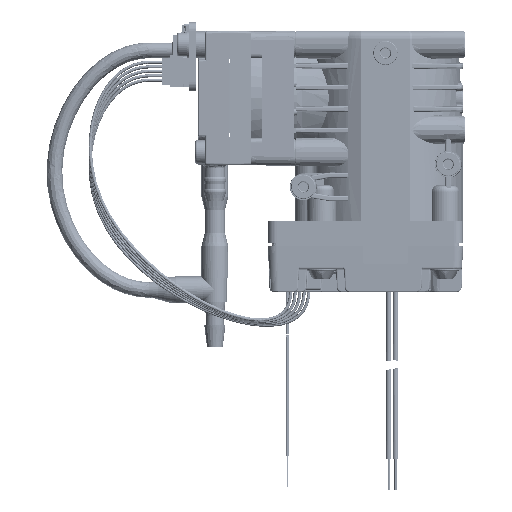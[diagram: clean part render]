
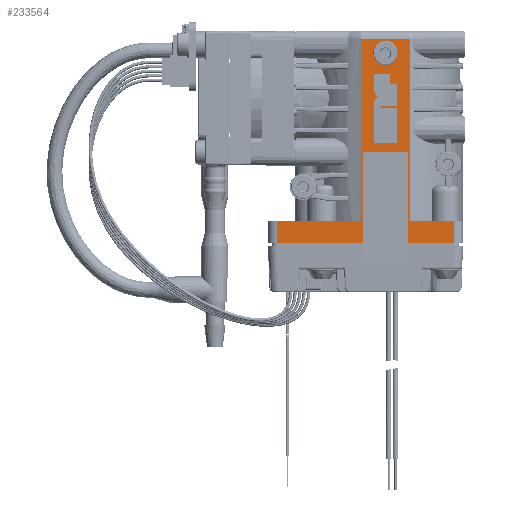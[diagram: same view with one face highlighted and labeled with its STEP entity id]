
A CAD part, left-side view. The second image highlights one B-rep face of the part: STEP entity #233564.
In plain terms, the highlighted planar face has unit normal (-1, 0, 0).
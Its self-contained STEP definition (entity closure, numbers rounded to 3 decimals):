
#52424=DIRECTION('',(0.,1.,0.));
#52425=VECTOR('',#52424,18.676);
#52426=CARTESIAN_POINT('',(-16.5,5.524,-27.43));
#52427=LINE('',#52426,#52425);
#53264=DIRECTION('',(0.,0.,-1.));
#53265=VECTOR('',#53264,4.8);
#53266=CARTESIAN_POINT('',(-16.5,24.2,-27.43));
#53267=LINE('',#53266,#53265);
#53273=DIRECTION('',(0.,0.,1.));
#53274=VECTOR('',#53273,19.73);
#53275=CARTESIAN_POINT('',(-16.5,-5.,-32.23));
#53276=LINE('',#53275,#53274);
#53277=CARTESIAN_POINT('',(-16.5,-4.5,-12.5));
#53278=DIRECTION('',(1.,0.,0.));
#53279=DIRECTION('',(0.,0.,1.));
#53280=AXIS2_PLACEMENT_3D('',#53277,#53278,#53279);
#53282=DIRECTION('',(0.,1.,0.));
#53283=VECTOR('',#53282,9.);
#53284=CARTESIAN_POINT('',(-16.5,-4.5,-12.));
#53285=LINE('',#53284,#53283);
#53286=CARTESIAN_POINT('',(-16.5,4.5,-12.5));
#53287=DIRECTION('',(1.,0.,0.));
#53288=DIRECTION('',(0.,1.,0.));
#53289=AXIS2_PLACEMENT_3D('',#53286,#53287,#53288);
#53291=DIRECTION('',(0.,0.,1.));
#53292=VECTOR('',#53291,19.73);
#53293=CARTESIAN_POINT('',(-16.5,5.,-32.23));
#53294=LINE('',#53293,#53292);
#53295=DIRECTION('',(0.,1.,0.));
#53296=VECTOR('',#53295,19.2);
#53297=CARTESIAN_POINT('',(-16.5,5.,-32.23));
#53298=LINE('',#53297,#53296);
#53299=DIRECTION('',(0.,-1.,0.));
#53300=VECTOR('',#53299,11.047);
#53301=CARTESIAN_POINT('',(-16.5,5.524,13.1));
#53302=LINE('',#53301,#53300);
#53303=DIRECTION('',(0.,0.,1.));
#53304=VECTOR('',#53303,20.);
#53305=CARTESIAN_POINT('',(-16.5,-5.524,-6.9));
#53306=LINE('',#53305,#53304);
#53307=DIRECTION('',(0.,0.,-1.));
#53308=VECTOR('',#53307,4.8);
#53309=CARTESIAN_POINT('',(-16.5,-15.3,-27.43));
#53310=LINE('',#53309,#53308);
#53311=DIRECTION('',(0.,1.,0.));
#53312=VECTOR('',#53311,10.3);
#53313=CARTESIAN_POINT('',(-16.5,-15.3,-32.23));
#53314=LINE('',#53313,#53312);
#53315=CARTESIAN_POINT('',(-16.5,0.,10.1));
#53316=DIRECTION('',(1.,0.,0.));
#53317=DIRECTION('',(0.,0.,-1.));
#53318=AXIS2_PLACEMENT_3D('',#53315,#53316,#53317);
#53320=CARTESIAN_POINT('',(-16.5,0.,10.1));
#53321=DIRECTION('',(1.,0.,0.));
#53322=DIRECTION('',(0.,0.,1.));
#53323=AXIS2_PLACEMENT_3D('',#53320,#53321,#53322);
#53325=DIRECTION('',(0.,-1.,0.));
#53326=VECTOR('',#53325,5.);
#53327=CARTESIAN_POINT('',(-16.5,2.5,-9.884));
#53328=LINE('',#53327,#53326);
#53329=DIRECTION('',(0.,0.,1.));
#53330=VECTOR('',#53329,7.626);
#53331=CARTESIAN_POINT('',(-16.5,-2.5,-9.884));
#53332=LINE('',#53331,#53330);
#53333=DIRECTION('',(0.,1.,0.));
#53334=VECTOR('',#53333,3.465);
#53335=CARTESIAN_POINT('',(-16.5,-2.5,-2.258));
#53336=LINE('',#53335,#53334);
#53337=DIRECTION('',(0.,0.,1.));
#53338=VECTOR('',#53337,0.616);
#53339=CARTESIAN_POINT('',(-16.5,0.965,-2.258));
#53340=LINE('',#53339,#53338);
#53341=DIRECTION('',(0.,-1.,0.));
#53342=VECTOR('',#53341,3.465);
#53343=CARTESIAN_POINT('',(-16.5,0.965,-1.642));
#53344=LINE('',#53343,#53342);
#53345=DIRECTION('',(0.,0.,1.));
#53346=VECTOR('',#53345,4.806);
#53347=CARTESIAN_POINT('',(-16.5,-2.5,-1.642));
#53348=LINE('',#53347,#53346);
#53349=DIRECTION('',(0.,1.,0.));
#53350=VECTOR('',#53349,1.54);
#53351=CARTESIAN_POINT('',(-16.5,-2.5,3.164));
#53352=LINE('',#53351,#53350);
#53353=DIRECTION('',(0.,0.,1.));
#53354=VECTOR('',#53353,2.336);
#53355=CARTESIAN_POINT('',(-16.5,-0.96,3.164));
#53356=LINE('',#53355,#53354);
#53357=DIRECTION('',(0.,1.,0.));
#53358=VECTOR('',#53357,3.46);
#53359=CARTESIAN_POINT('',(-16.5,-0.96,5.5));
#53360=LINE('',#53359,#53358);
#53361=DIRECTION('',(0.,0.,-1.));
#53362=VECTOR('',#53361,3.654);
#53363=CARTESIAN_POINT('',(-16.5,2.5,5.5));
#53364=LINE('',#53363,#53362);
#53365=CARTESIAN_POINT('',(-16.5,0.727,1.846));
#53366=DIRECTION('',(-1.,0.,0.));
#53367=DIRECTION('',(0.,1.,0.));
#53368=AXIS2_PLACEMENT_3D('',#53365,#53366,#53367);
#53370=CARTESIAN_POINT('',(-16.5,0.967,-1.123));
#53371=DIRECTION('',(-1.,0.,0.));
#53372=DIRECTION('',(0.,0.394,0.919));
#53373=AXIS2_PLACEMENT_3D('',#53370,#53371,#53372);
#53375=DIRECTION('',(0.,0.,-1.));
#53376=VECTOR('',#53375,8.761);
#53377=CARTESIAN_POINT('',(-16.5,2.5,-1.123));
#53378=LINE('',#53377,#53376);
#54856=DIRECTION('',(0.,0.,1.));
#54857=VECTOR('',#54856,20.53);
#54858=CARTESIAN_POINT('',(-16.5,-5.524,-27.43));
#54859=LINE('',#54858,#54857);
#55129=DIRECTION('',(0.,1.,0.));
#55130=VECTOR('',#55129,9.776);
#55131=CARTESIAN_POINT('',(-16.5,-15.3,-27.43));
#55132=LINE('',#55131,#55130);
#55358=CARTESIAN_POINT('',(-16.5,-5.524,13.1));
#60213=DIRECTION('',(0.,0.,-1.));
#60214=VECTOR('',#60213,40.53);
#60215=CARTESIAN_POINT('',(-16.5,5.524,13.1));
#60216=LINE('',#60215,#60214);
#194848=CARTESIAN_POINT('',(-16.5,-15.3,-27.43));
#194849=VERTEX_POINT('',#194848);
#194850=CARTESIAN_POINT('',(-16.5,24.2,-27.43));
#194851=VERTEX_POINT('',#194850);
#194860=CARTESIAN_POINT('',(-16.5,-15.3,-32.23));
#194861=VERTEX_POINT('',#194860);
#194862=CARTESIAN_POINT('',(-16.5,24.2,-32.23));
#194864=VERTEX_POINT('',#194862);
#194877=CARTESIAN_POINT('',(-16.5,5.524,-27.43));
#194879=VERTEX_POINT('',#194877);
#194880=CARTESIAN_POINT('',(-16.5,-5.524,-27.43));
#194882=VERTEX_POINT('',#194880);
#195106=CARTESIAN_POINT('',(-16.5,-5.524,-6.9));
#195107=VERTEX_POINT('',#195106);
#195360=CARTESIAN_POINT('',(-16.5,2.5,-9.884));
#195361=CARTESIAN_POINT('',(-16.5,-2.5,-9.884));
#195362=VERTEX_POINT('',#195360);
#195363=VERTEX_POINT('',#195361);
#195364=CARTESIAN_POINT('',(-16.5,-2.5,-2.258));
#195365=VERTEX_POINT('',#195364);
#195366=CARTESIAN_POINT('',(-16.5,0.965,-2.258));
#195367=VERTEX_POINT('',#195366);
#195368=CARTESIAN_POINT('',(-16.5,0.965,-1.642));
#195369=VERTEX_POINT('',#195368);
#195370=CARTESIAN_POINT('',(-16.5,-2.5,-1.642));
#195371=VERTEX_POINT('',#195370);
#195372=CARTESIAN_POINT('',(-16.5,-2.5,3.164));
#195373=VERTEX_POINT('',#195372);
#195374=CARTESIAN_POINT('',(-16.5,-0.96,3.164));
#195375=VERTEX_POINT('',#195374);
#195376=CARTESIAN_POINT('',(-16.5,-0.96,5.5));
#195377=VERTEX_POINT('',#195376);
#195378=CARTESIAN_POINT('',(-16.5,2.5,5.5));
#195379=VERTEX_POINT('',#195378);
#195380=CARTESIAN_POINT('',(-16.5,2.5,1.846));
#195381=VERTEX_POINT('',#195380);
#195382=CARTESIAN_POINT('',(-16.5,1.57,0.286));
#195383=VERTEX_POINT('',#195382);
#195384=CARTESIAN_POINT('',(-16.5,2.5,-1.123));
#195385=VERTEX_POINT('',#195384);
#196458=CARTESIAN_POINT('',(-16.5,0.,7.4));
#196459=CARTESIAN_POINT('',(-16.5,0.,12.8));
#196460=VERTEX_POINT('',#196458);
#196461=VERTEX_POINT('',#196459);
#196680=VERTEX_POINT('',#55358);
#196683=CARTESIAN_POINT('',(-16.5,5.524,13.1));
#196684=VERTEX_POINT('',#196683);
#209324=CARTESIAN_POINT('',(-16.5,-5.,-32.23));
#209325=CARTESIAN_POINT('',(-16.5,-5.,-12.5));
#209326=VERTEX_POINT('',#209324);
#209327=VERTEX_POINT('',#209325);
#209328=CARTESIAN_POINT('',(-16.5,-4.5,-12.));
#209329=CARTESIAN_POINT('',(-16.5,4.5,-12.));
#209330=VERTEX_POINT('',#209328);
#209331=VERTEX_POINT('',#209329);
#209332=CARTESIAN_POINT('',(-16.5,5.,-32.23));
#209333=CARTESIAN_POINT('',(-16.5,5.,-12.5));
#209334=VERTEX_POINT('',#209332);
#209335=VERTEX_POINT('',#209333);
#233495=CARTESIAN_POINT('',(-16.5,5.524,0.));
#233496=DIRECTION('',(-1.,0.,0.));
#233497=DIRECTION('',(0.,-1.,0.));
#233498=AXIS2_PLACEMENT_3D('',#233495,#233496,#233497);
#233499=PLANE('',#233498);
#233501=ORIENTED_EDGE('',*,*,#233500,.T.);
#233503=ORIENTED_EDGE('',*,*,#233502,.F.);
#233505=ORIENTED_EDGE('',*,*,#233504,.T.);
#233507=ORIENTED_EDGE('',*,*,#233506,.F.);
#233509=ORIENTED_EDGE('',*,*,#233508,.F.);
#233511=ORIENTED_EDGE('',*,*,#233510,.T.);
#233512=ORIENTED_EDGE('',*,*,#233479,.F.);
#233513=ORIENTED_EDGE('',*,*,#233165,.F.);
#233515=ORIENTED_EDGE('',*,*,#233514,.F.);
#233517=ORIENTED_EDGE('',*,*,#233516,.T.);
#233519=ORIENTED_EDGE('',*,*,#233518,.F.);
#233521=ORIENTED_EDGE('',*,*,#233520,.F.);
#233523=ORIENTED_EDGE('',*,*,#233522,.F.);
#233525=ORIENTED_EDGE('',*,*,#233524,.T.);
#233527=ORIENTED_EDGE('',*,*,#233526,.T.);
#233528=EDGE_LOOP('',(#233501,#233503,#233505,#233507,#233509,#233511,#233512,
#233513,#233515,#233517,#233519,#233521,#233523,#233525,#233527));
#233529=FACE_OUTER_BOUND('',#233528,.F.);
#233531=ORIENTED_EDGE('',*,*,#233530,.F.);
#233533=ORIENTED_EDGE('',*,*,#233532,.F.);
#233534=EDGE_LOOP('',(#233531,#233533));
#233535=FACE_BOUND('',#233534,.F.);
#233537=ORIENTED_EDGE('',*,*,#233536,.T.);
#233539=ORIENTED_EDGE('',*,*,#233538,.T.);
#233541=ORIENTED_EDGE('',*,*,#233540,.T.);
#233543=ORIENTED_EDGE('',*,*,#233542,.T.);
#233545=ORIENTED_EDGE('',*,*,#233544,.T.);
#233547=ORIENTED_EDGE('',*,*,#233546,.T.);
#233549=ORIENTED_EDGE('',*,*,#233548,.T.);
#233551=ORIENTED_EDGE('',*,*,#233550,.T.);
#233553=ORIENTED_EDGE('',*,*,#233552,.T.);
#233555=ORIENTED_EDGE('',*,*,#233554,.T.);
#233557=ORIENTED_EDGE('',*,*,#233556,.T.);
#233559=ORIENTED_EDGE('',*,*,#233558,.T.);
#233561=ORIENTED_EDGE('',*,*,#233560,.T.);
#233562=EDGE_LOOP('',(#233537,#233539,#233541,#233543,#233545,#233547,#233549,
#233551,#233553,#233555,#233557,#233559,#233561));
#233563=FACE_BOUND('',#233562,.F.);
#53281=CIRCLE('',#53280,0.5);
#53290=CIRCLE('',#53289,0.5);
#53319=CIRCLE('',#53318,2.7);
#53324=CIRCLE('',#53323,2.7);
#53369=CIRCLE('',#53368,1.773);
#53374=CIRCLE('',#53373,1.533);
#233165=EDGE_CURVE('',#194879,#194851,#52427,.T.);
#233479=EDGE_CURVE('',#194851,#194864,#53267,.T.);
#233500=EDGE_CURVE('',#209326,#209327,#53276,.T.);
#233502=EDGE_CURVE('',#209330,#209327,#53281,.T.);
#233504=EDGE_CURVE('',#209330,#209331,#53285,.T.);
#233506=EDGE_CURVE('',#209335,#209331,#53290,.T.);
#233508=EDGE_CURVE('',#209334,#209335,#53294,.T.);
#233510=EDGE_CURVE('',#209334,#194864,#53298,.T.);
#233514=EDGE_CURVE('',#196684,#194879,#60216,.T.);
#233516=EDGE_CURVE('',#196684,#196680,#53302,.T.);
#233518=EDGE_CURVE('',#195107,#196680,#53306,.T.);
#233520=EDGE_CURVE('',#194882,#195107,#54859,.T.);
#233522=EDGE_CURVE('',#194849,#194882,#55132,.T.);
#233524=EDGE_CURVE('',#194849,#194861,#53310,.T.);
#233526=EDGE_CURVE('',#194861,#209326,#53314,.T.);
#233530=EDGE_CURVE('',#196460,#196461,#53319,.T.);
#233532=EDGE_CURVE('',#196461,#196460,#53324,.T.);
#233536=EDGE_CURVE('',#195362,#195363,#53328,.T.);
#233538=EDGE_CURVE('',#195363,#195365,#53332,.T.);
#233540=EDGE_CURVE('',#195365,#195367,#53336,.T.);
#233542=EDGE_CURVE('',#195367,#195369,#53340,.T.);
#233544=EDGE_CURVE('',#195369,#195371,#53344,.T.);
#233546=EDGE_CURVE('',#195371,#195373,#53348,.T.);
#233548=EDGE_CURVE('',#195373,#195375,#53352,.T.);
#233550=EDGE_CURVE('',#195375,#195377,#53356,.T.);
#233552=EDGE_CURVE('',#195377,#195379,#53360,.T.);
#233554=EDGE_CURVE('',#195379,#195381,#53364,.T.);
#233556=EDGE_CURVE('',#195381,#195383,#53369,.T.);
#233558=EDGE_CURVE('',#195383,#195385,#53374,.T.);
#233560=EDGE_CURVE('',#195385,#195362,#53378,.T.);
#233564=ADVANCED_FACE('',(#233529,#233535,#233563),#233499,.T.);
